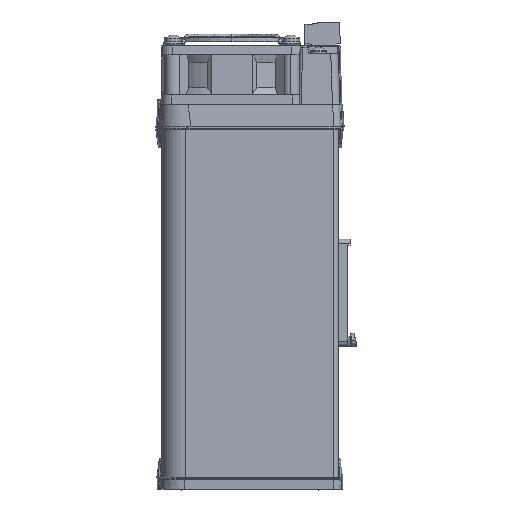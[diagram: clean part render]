
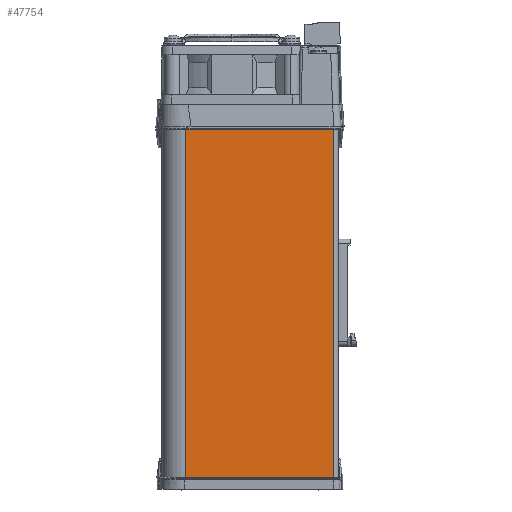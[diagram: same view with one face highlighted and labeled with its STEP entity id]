
A CAD part, left-side view. The second image highlights one B-rep face of the part: STEP entity #47754.
In plain terms, the highlighted planar face has unit normal (-1, 0, 0) as drawn and (0, 1, 0) by its records, which use the part's own axes.
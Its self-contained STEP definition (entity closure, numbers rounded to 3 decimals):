
#2588 = DIRECTION ( 'NONE',  ( -1., 0., 0. ) ) ;
#2998 = VERTEX_POINT ( 'NONE', #46811 ) ;
#3570 = ORIENTED_EDGE ( 'NONE', *, *, #37936, .T. ) ;
#5744 = LINE ( 'NONE', #13462, #35537 ) ;
#6134 = CARTESIAN_POINT ( 'NONE',  ( -2., 24.5, 0. ) ) ;
#6771 = ORIENTED_EDGE ( 'NONE', *, *, #21779, .F. ) ;
#8711 = DIRECTION ( 'NONE',  ( 0., -1., 0. ) ) ;
#8716 = CARTESIAN_POINT ( 'NONE',  ( -2., 24.5, 100. ) ) ;
#8970 = EDGE_CURVE ( 'NONE', #44092, #33551, #36780, .T. ) ;
#9357 = AXIS2_PLACEMENT_3D ( 'NONE', #45361, #8711, #12331 ) ;
#12331 = DIRECTION ( 'NONE',  ( 1., 0., 0. ) ) ;
#12819 = LINE ( 'NONE', #8716, #25126 ) ;
#13462 = CARTESIAN_POINT ( 'NONE',  ( -2., 24.5, 150. ) ) ;
#14487 = EDGE_CURVE ( 'NONE', #2998, #33551, #39176, .T. ) ;
#15209 = PLANE ( 'NONE',  #9357 ) ;
#18532 = CARTESIAN_POINT ( 'NONE',  ( -65., 24.5, 150. ) ) ;
#20848 = DIRECTION ( 'NONE',  ( -1., 0., 0. ) ) ;
#21779 = EDGE_CURVE ( 'NONE', #41649, #44092, #5744, .T. ) ;
#25126 = VECTOR ( 'NONE', #42234, 1000. ) ;
#25594 = CARTESIAN_POINT ( 'NONE',  ( -65., 24.5, 0. ) ) ;
#26397 = ORIENTED_EDGE ( 'NONE', *, *, #14487, .T. ) ;
#29899 = CARTESIAN_POINT ( 'NONE',  ( -2., 24.5, 150. ) ) ;
#30392 = FACE_OUTER_BOUND ( 'NONE', #38163, .T. ) ;
#33551 = VERTEX_POINT ( 'NONE', #25594 ) ;
#34903 = VECTOR ( 'NONE', #40381, 1000. ) ;
#35537 = VECTOR ( 'NONE', #2588, 1000. ) ;
#36717 = VECTOR ( 'NONE', #20848, 1000. ) ;
#36780 = LINE ( 'NONE', #44251, #34903 ) ;
#37936 = EDGE_CURVE ( 'NONE', #41649, #2998, #12819, .T. ) ;
#38163 = EDGE_LOOP ( 'NONE', ( #26397, #42114, #6771, #3570 ) ) ;
#39176 = LINE ( 'NONE', #6134, #36717 ) ;
#40381 = DIRECTION ( 'NONE',  ( 0., 0., -1. ) ) ;
#41649 = VERTEX_POINT ( 'NONE', #29899 ) ;
#42114 = ORIENTED_EDGE ( 'NONE', *, *, #8970, .F. ) ;
#42234 = DIRECTION ( 'NONE',  ( 0., 0., -1. ) ) ;
#44092 = VERTEX_POINT ( 'NONE', #18532 ) ;
#44251 = CARTESIAN_POINT ( 'NONE',  ( -65., 24.5, 100. ) ) ;
#45361 = CARTESIAN_POINT ( 'NONE',  ( -2., 24.5, 100. ) ) ;
#46811 = CARTESIAN_POINT ( 'NONE',  ( -2., 24.5, 0. ) ) ;
#47754 = ADVANCED_FACE ( 'NONE', ( #30392 ), #15209, .F. ) ;
